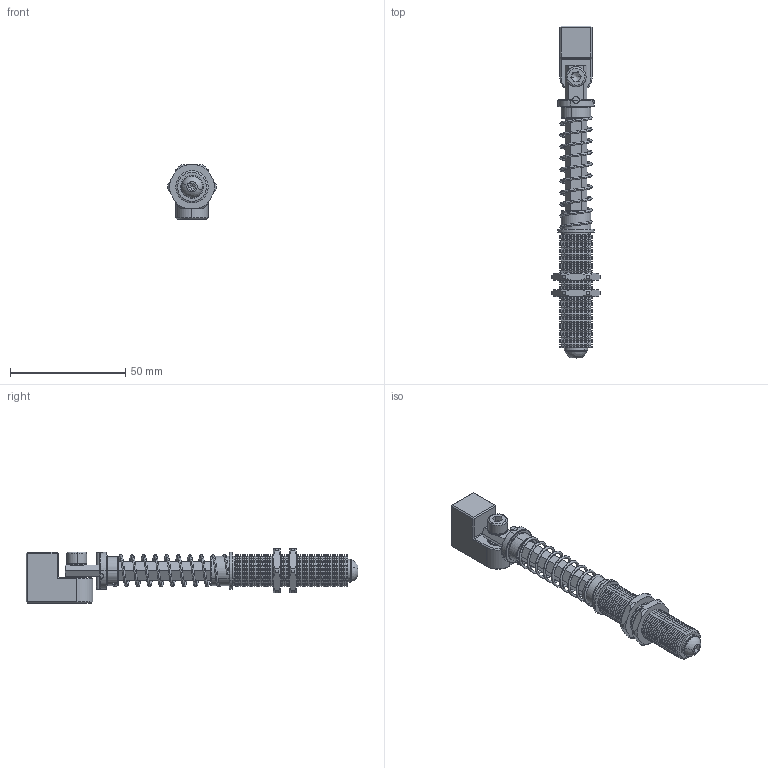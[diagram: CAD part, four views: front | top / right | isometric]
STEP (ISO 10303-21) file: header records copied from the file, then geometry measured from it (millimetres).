
FILE_DESCRIPTION (( 'STEP AP214' ), '1' );
FILE_NAME ('VFMT-40M14-G18.STEP', '2019-12-19T05:31:07', ( '微软用户' ), ( '微软中国' ), 'SwSTEP 2.0', 'SolidWorks 2016', '' );
FILE_SCHEMA (( 'AUTOMOTIVE_DESIGN' ));
Length unit declared in the file: millimetre
Products named in the file (1): VFMT-40M14-G18
Bounding box: 20.99 x 143.85 x 23.5 mm (x, y, z)
Volume: 20281.1 mm3; surface area: 19163 mm2
Topology: 16 solids, 16 shells, 1143 faces, 2945 edges, 1827 vertices
Faces by surface type: plane 686, cone 270, cylinder 177, torus 6, bspline 2, sphere 2
Entity records: 51371 total; most frequent: CARTESIAN_POINT 10127, DIRECTION 6243, ORIENTED_EDGE 5878, EDGE_CURVE 2939, AXIS2_PLACEMENT_3D 2245, VERTEX_POINT 1827, LINE 1753, VECTOR 1753
